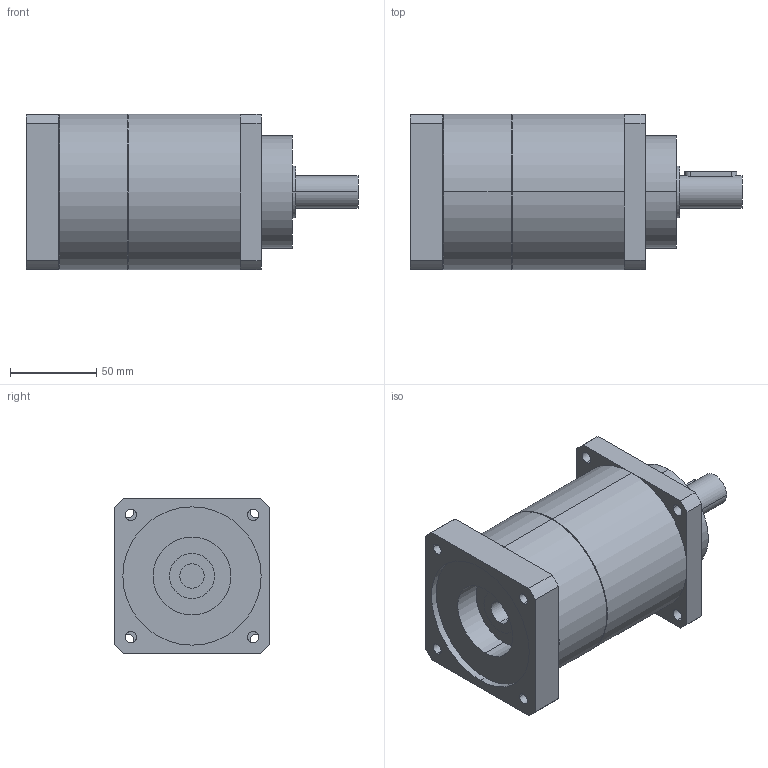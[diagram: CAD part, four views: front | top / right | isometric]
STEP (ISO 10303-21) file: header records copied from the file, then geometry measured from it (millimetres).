
FILE_DESCRIPTION(('CoCreate Modeling STEP Export'),'2;1');
FILE_NAME('GPT90_ig-9-12-16-20-25-28-35-40-50-70-100_19_B5T_14_P34.stp','2015-02-04T11:29:55',(''),(''),'CoCreate Modeling STEP processor for AP214 (Solid Model)','CoCreate Modeling 16.00C 25-Feb-2009 (C) Parametric Technology GmbH','');
FILE_SCHEMA(('AUTOMOTIVE_DESIGN { 1 0 10303 214 1 1 1 1 }'));
Length unit declared in the file: millimetre
Products named in the file (2): GPT90_ig-9-12-16-20-25-28-35-40-50-70-100_19_B5T_14_P34
Assembly tree (1 placements, depth 2):
  GPT90_ig-9-12-16-20-25-28-35-40-50-70-100_19_B5T_14_P34
    GPT90_ig-9-12-16-20-25-28-35-40-50-70-100_19_B5T_14_P34
Bounding box: 192 x 90 x 90 mm (x, y, z)
Volume: 936561.4 mm3; surface area: 73770.1 mm2
Topology: 1 solids, 1 shells, 77 faces, 206 edges, 141 vertices
Faces by surface type: cylinder 46, plane 27, cone 4
Entity records: 2596 total; most frequent: CARTESIAN_POINT 742, ORIENTED_EDGE 412, DIRECTION 324, EDGE_CURVE 206, VERTEX_POINT 141, AXIS2_PLACEMENT_3D 120, EDGE_LOOP 103, VECTOR 84
